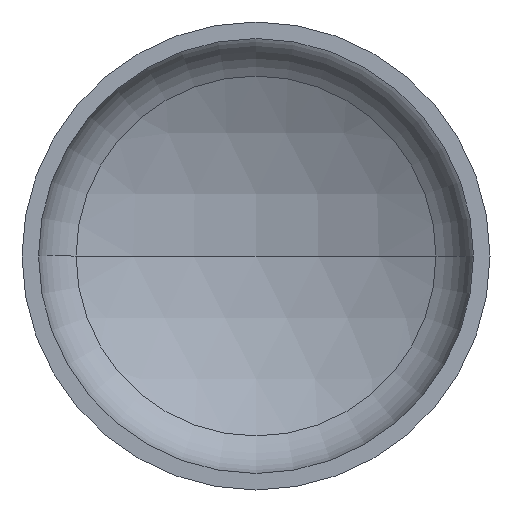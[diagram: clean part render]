
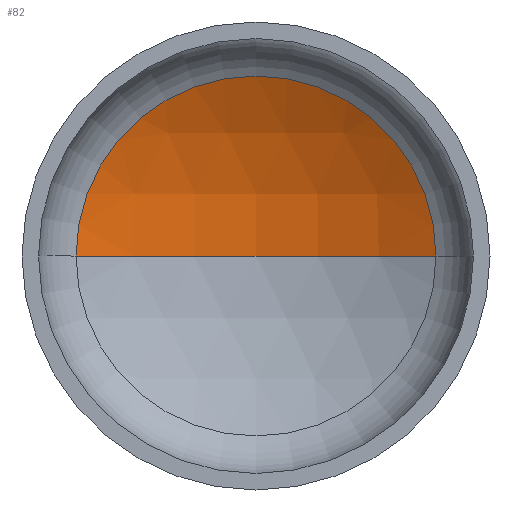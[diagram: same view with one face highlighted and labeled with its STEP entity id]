
A CAD part, front view. The second image highlights one B-rep face of the part: STEP entity #82.
In plain terms, the highlighted spherical face has radius 2720 mm.
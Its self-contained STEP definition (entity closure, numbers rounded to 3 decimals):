
#3 = EDGE_LOOP ( 'NONE', ( #104, #25, #166 ) ) ;
#10 = AXIS2_PLACEMENT_3D ( 'NONE', #276, #329, #164 ) ;
#24 = AXIS2_PLACEMENT_3D ( 'NONE', #168, #360, #89 ) ;
#25 = ORIENTED_EDGE ( 'NONE', *, *, #343, .T. ) ;
#56 = VERTEX_POINT ( 'NONE', #273 ) ;
#74 = AXIS2_PLACEMENT_3D ( 'NONE', #241, #234, #245 ) ;
#82 = ADVANCED_FACE ( 'NONE', ( #279 ), #213, .F. ) ;
#89 = DIRECTION ( 'NONE',  ( 1., 0., 0. ) ) ;
#104 = ORIENTED_EDGE ( 'NONE', *, *, #380, .F. ) ;
#112 = VERTEX_POINT ( 'NONE', #187 ) ;
#118 = VERTEX_POINT ( 'NONE', #186 ) ;
#132 = CARTESIAN_POINT ( 'NONE',  ( 0., -1849.838, 0. ) ) ;
#133 = CIRCLE ( 'NONE', #10, 2720. ) ;
#164 = DIRECTION ( 'NONE',  ( -1., 0., 0. ) ) ;
#166 = ORIENTED_EDGE ( 'NONE', *, *, #340, .T. ) ;
#168 = CARTESIAN_POINT ( 'NONE',  ( 0., 535.383, 0. ) ) ;
#172 = DIRECTION ( 'NONE',  ( 1., 0., 0. ) ) ;
#186 = CARTESIAN_POINT ( 'NONE',  ( 1307.335, 535.383, 0. ) ) ;
#187 = CARTESIAN_POINT ( 'NONE',  ( 0., 870.162, 0. ) ) ;
#213 = SPHERICAL_SURFACE ( 'NONE', #74, 2720. ) ;
#234 = DIRECTION ( 'NONE',  ( 0., 0., -1. ) ) ;
#238 = CIRCLE ( 'NONE', #24, 1307.335 ) ;
#241 = CARTESIAN_POINT ( 'NONE',  ( 0., -1849.838, 0. ) ) ;
#245 = DIRECTION ( 'NONE',  ( -1., 0., 0. ) ) ;
#273 = CARTESIAN_POINT ( 'NONE',  ( -1307.335, 535.383, 0. ) ) ;
#274 = CIRCLE ( 'NONE', #289, 2720. ) ;
#276 = CARTESIAN_POINT ( 'NONE',  ( 0., -1849.838, 0. ) ) ;
#279 = FACE_OUTER_BOUND ( 'NONE', #3, .T. ) ;
#289 = AXIS2_PLACEMENT_3D ( 'NONE', #132, #333, #172 ) ;
#329 = DIRECTION ( 'NONE',  ( 0., 0., -1. ) ) ;
#333 = DIRECTION ( 'NONE',  ( 0., 0., 1. ) ) ;
#340 = EDGE_CURVE ( 'NONE', #118, #56, #238, .T. ) ;
#343 = EDGE_CURVE ( 'NONE', #112, #118, #133, .T. ) ;
#360 = DIRECTION ( 'NONE',  ( 0., -1., 0. ) ) ;
#380 = EDGE_CURVE ( 'NONE', #112, #56, #274, .T. ) ;
